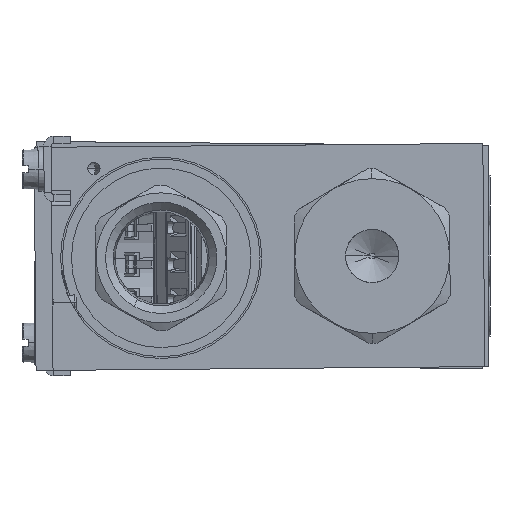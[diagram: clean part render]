
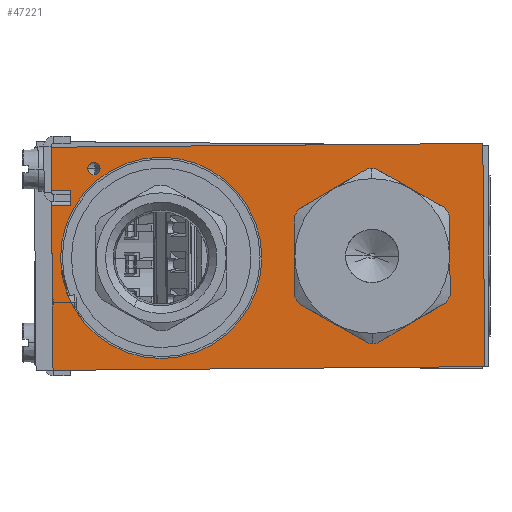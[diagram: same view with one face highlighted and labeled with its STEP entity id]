
A CAD part, left-side view. The second image highlights one B-rep face of the part: STEP entity #47221.
In plain terms, the highlighted planar face has unit normal (-1, 0, 0) as drawn and (0, 0, -1) by its records, which use the part's own axes.
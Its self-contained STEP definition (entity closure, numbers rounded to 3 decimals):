
#39447=DIRECTION('',(0.,1.,0.));
#39448=VECTOR('',#39447,4.);
#39449=CARTESIAN_POINT('',(-11.,38.75,0.));
#39450=LINE('',#39449,#39448);
#39575=DIRECTION('',(-1.,0.,0.));
#39576=VECTOR('',#39575,3.);
#39577=CARTESIAN_POINT('',(-11.,38.75,0.));
#39578=LINE('',#39577,#39576);
#39582=DIRECTION('',(0.,1.,0.));
#39583=VECTOR('',#39582,4.);
#39584=CARTESIAN_POINT('',(-14.,38.75,0.));
#39585=LINE('',#39584,#39583);
#39589=DIRECTION('',(-1.,0.,0.));
#39590=VECTOR('',#39589,9.);
#39591=CARTESIAN_POINT('',(-14.,42.75,0.));
#39592=LINE('',#39591,#39590);
#39596=DIRECTION('',(0.,-1.,0.));
#39597=VECTOR('',#39596,89.);
#39598=CARTESIAN_POINT('',(-23.,42.75,0.));
#39599=LINE('',#39598,#39597);
#39603=DIRECTION('',(1.,0.,0.));
#39604=VECTOR('',#39603,46.);
#39605=CARTESIAN_POINT('',(-23.,-46.25,0.));
#39606=LINE('',#39605,#39604);
#39610=DIRECTION('',(0.,1.,0.));
#39611=VECTOR('',#39610,89.);
#39612=CARTESIAN_POINT('',(23.,-46.25,0.));
#39613=LINE('',#39612,#39611);
#39617=DIRECTION('',(-1.,0.,0.));
#39618=VECTOR('',#39617,34.);
#39619=CARTESIAN_POINT('',(23.,42.75,0.));
#39620=LINE('',#39619,#39618);
#39624=CARTESIAN_POINT('',(0.,20.25,0.));
#39625=DIRECTION('',(0.,0.,-1.));
#39626=DIRECTION('',(0.,1.,0.));
#39627=AXIS2_PLACEMENT_3D('',#39624,#39625,#39626);
#39632=CARTESIAN_POINT('',(0.,20.25,0.));
#39633=DIRECTION('',(0.,0.,-1.));
#39634=DIRECTION('',(0.,-1.,0.));
#39635=AXIS2_PLACEMENT_3D('',#39632,#39633,#39634);
#39640=CARTESIAN_POINT('',(0.,-23.25,0.));
#39641=DIRECTION('',(0.,0.,-1.));
#39642=DIRECTION('',(-1.,0.,0.));
#39643=AXIS2_PLACEMENT_3D('',#39640,#39641,#39642);
#39648=CARTESIAN_POINT('',(0.,-23.25,0.));
#39649=DIRECTION('',(0.,0.,-1.));
#39650=DIRECTION('',(1.,0.,0.));
#39651=AXIS2_PLACEMENT_3D('',#39648,#39649,#39650);
#39656=CARTESIAN_POINT('',(-18.5,33.95,0.));
#39657=DIRECTION('',(0.,0.,-1.));
#39658=DIRECTION('',(1.,0.,0.));
#39659=AXIS2_PLACEMENT_3D('',#39656,#39657,#39658);
#39664=CARTESIAN_POINT('',(-18.5,33.95,0.));
#39665=DIRECTION('',(0.,0.,-1.));
#39666=DIRECTION('',(-1.,0.,0.));
#39667=AXIS2_PLACEMENT_3D('',#39664,#39665,#39666);
#45512=CARTESIAN_POINT('',(23.,42.75,0.));
#45514=VERTEX_POINT('',#45512);
#45515=CARTESIAN_POINT('',(23.,-46.25,0.));
#45516=VERTEX_POINT('',#45515);
#45520=CARTESIAN_POINT('',(-11.,42.75,0.));
#45522=VERTEX_POINT('',#45520);
#45535=CARTESIAN_POINT('',(-11.,38.75,0.));
#45536=VERTEX_POINT('',#45535);
#45543=CARTESIAN_POINT('',(-23.,-46.25,0.));
#45544=VERTEX_POINT('',#45543);
#45545=CARTESIAN_POINT('',(-23.,42.75,0.));
#45546=VERTEX_POINT('',#45545);
#45551=CARTESIAN_POINT('',(-14.,38.75,0.));
#45552=VERTEX_POINT('',#45551);
#45553=CARTESIAN_POINT('',(-14.,42.75,0.));
#45554=VERTEX_POINT('',#45553);
#45555=CARTESIAN_POINT('',(0.,41.,0.));
#45556=CARTESIAN_POINT('',(0.,-0.5,0.));
#45557=VERTEX_POINT('',#45555);
#45558=VERTEX_POINT('',#45556);
#45559=CARTESIAN_POINT('',(-11.03,-23.25,0.));
#45560=CARTESIAN_POINT('',(11.03,-23.25,0.));
#45561=VERTEX_POINT('',#45559);
#45562=VERTEX_POINT('',#45560);
#45563=CARTESIAN_POINT('',(-17.25,33.95,0.));
#45564=CARTESIAN_POINT('',(-19.75,33.95,0.));
#45565=VERTEX_POINT('',#45563);
#45566=VERTEX_POINT('',#45564);
#47185=CARTESIAN_POINT('',(0.,0.,0.));
#47186=DIRECTION('',(0.,0.,1.));
#47187=DIRECTION('',(1.,0.,0.));
#47188=AXIS2_PLACEMENT_3D('',#47185,#47186,#47187);
#47189=PLANE('',#47188);
#47191=ORIENTED_EDGE('',*,*,#47190,.T.);
#47193=ORIENTED_EDGE('',*,*,#47192,.T.);
#47195=ORIENTED_EDGE('',*,*,#47194,.T.);
#47196=ORIENTED_EDGE('',*,*,#47147,.T.);
#47197=ORIENTED_EDGE('',*,*,#47170,.T.);
#47198=ORIENTED_EDGE('',*,*,#46991,.T.);
#47199=ORIENTED_EDGE('',*,*,#47017,.T.);
#47200=ORIENTED_EDGE('',*,*,#47056,.F.);
#47201=EDGE_LOOP('',(#47191,#47193,#47195,#47196,#47197,#47198,#47199,#47200));
#47202=FACE_OUTER_BOUND('',#47201,.F.);
#47204=ORIENTED_EDGE('',*,*,#47203,.T.);
#47206=ORIENTED_EDGE('',*,*,#47205,.T.);
#47207=EDGE_LOOP('',(#47204,#47206));
#47208=FACE_BOUND('',#47207,.F.);
#47210=ORIENTED_EDGE('',*,*,#47209,.T.);
#47212=ORIENTED_EDGE('',*,*,#47211,.T.);
#47213=EDGE_LOOP('',(#47210,#47212));
#47214=FACE_BOUND('',#47213,.F.);
#47216=ORIENTED_EDGE('',*,*,#47215,.T.);
#47218=ORIENTED_EDGE('',*,*,#47217,.T.);
#47219=EDGE_LOOP('',(#47216,#47218));
#47220=FACE_BOUND('',#47219,.F.);
#39628=CIRCLE('',#39627,20.75);
#39636=CIRCLE('',#39635,20.75);
#39644=CIRCLE('',#39643,11.03);
#39652=CIRCLE('',#39651,11.03);
#39660=CIRCLE('',#39659,1.25);
#39668=CIRCLE('',#39667,1.25);
#46991=EDGE_CURVE('',#45516,#45514,#39613,.T.);
#47017=EDGE_CURVE('',#45514,#45522,#39620,.T.);
#47056=EDGE_CURVE('',#45536,#45522,#39450,.T.);
#47147=EDGE_CURVE('',#45546,#45544,#39599,.T.);
#47170=EDGE_CURVE('',#45544,#45516,#39606,.T.);
#47190=EDGE_CURVE('',#45536,#45552,#39578,.T.);
#47192=EDGE_CURVE('',#45552,#45554,#39585,.T.);
#47194=EDGE_CURVE('',#45554,#45546,#39592,.T.);
#47203=EDGE_CURVE('',#45557,#45558,#39628,.T.);
#47205=EDGE_CURVE('',#45558,#45557,#39636,.T.);
#47209=EDGE_CURVE('',#45561,#45562,#39644,.T.);
#47211=EDGE_CURVE('',#45562,#45561,#39652,.T.);
#47215=EDGE_CURVE('',#45565,#45566,#39660,.T.);
#47217=EDGE_CURVE('',#45566,#45565,#39668,.T.);
#47221=ADVANCED_FACE('',(#47202,#47208,#47214,#47220),#47189,.F.);
